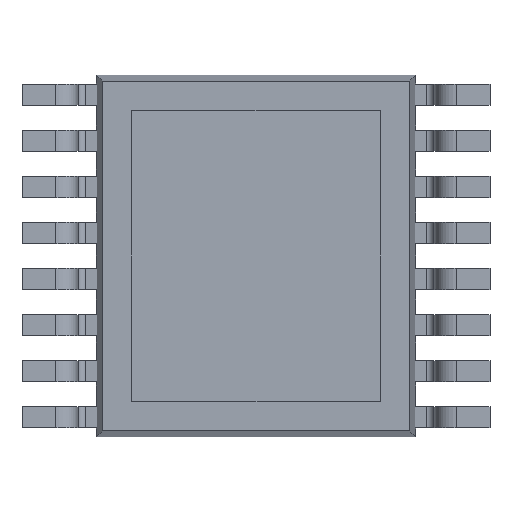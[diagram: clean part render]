
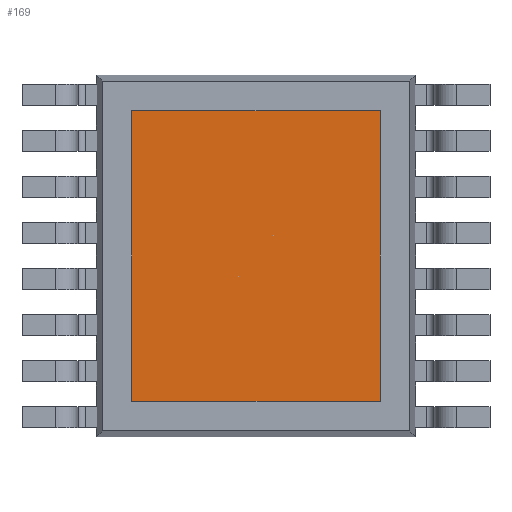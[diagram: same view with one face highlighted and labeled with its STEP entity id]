
A CAD part, front view. The second image highlights one B-rep face of the part: STEP entity #169.
In plain terms, the highlighted planar face has unit normal (0, -1, 0).
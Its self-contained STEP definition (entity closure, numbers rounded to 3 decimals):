
#169 = ADVANCED_FACE ( 'NONE', ( #4359 ), #10783, .F. ) ;
#1003 = ORIENTED_EDGE ( 'NONE', *, *, #1296, .T. ) ;
#1004 = ORIENTED_EDGE ( 'NONE', *, *, #1315, .T. ) ;
#1005 = ORIENTED_EDGE ( 'NONE', *, *, #1307, .T. ) ;
#1006 = ORIENTED_EDGE ( 'NONE', *, *, #1308, .T. ) ;
#1296 = EDGE_CURVE ( 'NONE', #4011, #4008, #5382, .T. ) ;
#1307 = EDGE_CURVE ( 'NONE', #3996, #4000, #5398, .T. ) ;
#1308 = EDGE_CURVE ( 'NONE', #4000, #4011, #5405, .T. ) ;
#1315 = EDGE_CURVE ( 'NONE', #4008, #3996, #5415, .T. ) ;
#2124 = AXIS2_PLACEMENT_3D ( 'NONE', #10635, #10699, #10696 ) ;
#3184 = EDGE_LOOP ( 'NONE', ( #1003, #1004, #1005, #1006 ) ) ;
#3996 = VERTEX_POINT ( 'NONE', #9026 ) ;
#4000 = VERTEX_POINT ( 'NONE', #9028 ) ;
#4008 = VERTEX_POINT ( 'NONE', #9032 ) ;
#4011 = VERTEX_POINT ( 'NONE', #9034 ) ;
#4359 = FACE_OUTER_BOUND ( 'NONE', #3184, .T. ) ;
#5382 = LINE ( 'NONE', #6363, #5386 ) ;
#5386 = VECTOR ( 'NONE', #6370, 1000. ) ;
#5398 = LINE ( 'NONE', #6386, #5406 ) ;
#5405 = LINE ( 'NONE', #6394, #5408 ) ;
#5406 = VECTOR ( 'NONE', #6393, 1000. ) ;
#5408 = VECTOR ( 'NONE', #6395, 1000. ) ;
#5415 = LINE ( 'NONE', #6407, #5420 ) ;
#5420 = VECTOR ( 'NONE', #6411, 1000. ) ;
#6363 = CARTESIAN_POINT ( 'NONE',  ( 1.75, 0., 2.05 ) ) ;
#6370 = DIRECTION ( 'NONE',  ( 0., 0., 1. ) ) ;
#6386 = CARTESIAN_POINT ( 'NONE',  ( -1.75, 0., 2.05 ) ) ;
#6393 = DIRECTION ( 'NONE',  ( 0., 0., -1. ) ) ;
#6394 = CARTESIAN_POINT ( 'NONE',  ( -1.75, 0., -2.05 ) ) ;
#6395 = DIRECTION ( 'NONE',  ( 1., 0., 0. ) ) ;
#6407 = CARTESIAN_POINT ( 'NONE',  ( -1.75, 0., 2.05 ) ) ;
#6411 = DIRECTION ( 'NONE',  ( -1., 0., 0. ) ) ;
#9026 = CARTESIAN_POINT ( 'NONE',  ( -1.75, 0., 2.05 ) ) ;
#9028 = CARTESIAN_POINT ( 'NONE',  ( -1.75, 0., -2.05 ) ) ;
#9032 = CARTESIAN_POINT ( 'NONE',  ( 1.75, 0., 2.05 ) ) ;
#9034 = CARTESIAN_POINT ( 'NONE',  ( 1.75, 0., -2.05 ) ) ;
#10635 = CARTESIAN_POINT ( 'NONE',  ( 0., 0., 0. ) ) ;
#10696 = DIRECTION ( 'NONE',  ( 0., 0., 1. ) ) ;
#10699 = DIRECTION ( 'NONE',  ( 0., 1., 0. ) ) ;
#10783 = PLANE ( 'NONE',  #2124 ) ;
